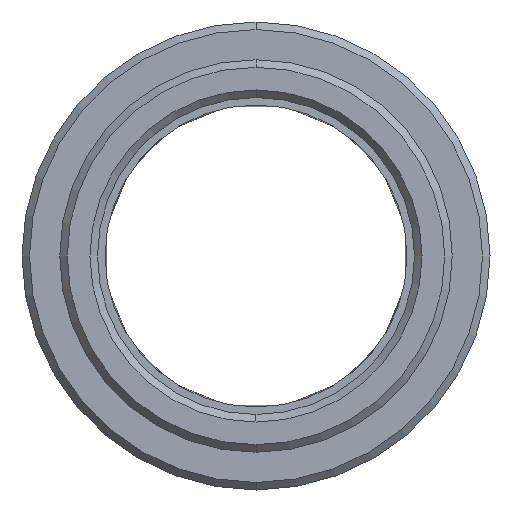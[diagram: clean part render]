
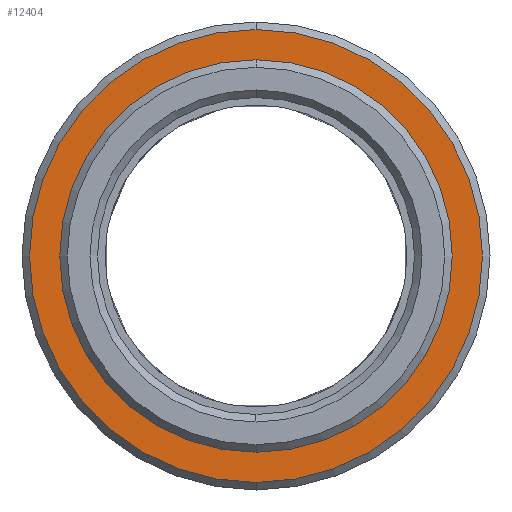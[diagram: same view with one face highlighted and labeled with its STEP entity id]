
A CAD part, left-side view. The second image highlights one B-rep face of the part: STEP entity #12404.
In plain terms, the highlighted planar face has unit normal (-1, 0, 0).
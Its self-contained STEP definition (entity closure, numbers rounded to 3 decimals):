
#4884=CARTESIAN_POINT('',(0.,0.,0.));
#4885=DIRECTION('',(1.,0.,0.));
#4886=DIRECTION('',(0.,0.,1.));
#4887=AXIS2_PLACEMENT_3D('',#4884,#4885,#4886);
#4889=CARTESIAN_POINT('',(0.,0.,0.));
#4890=DIRECTION('',(-1.,0.,0.));
#4891=DIRECTION('',(0.,0.,1.));
#4892=AXIS2_PLACEMENT_3D('',#4889,#4890,#4891);
#4894=CARTESIAN_POINT('',(0.,0.,0.));
#4895=DIRECTION('',(1.,0.,0.));
#4896=DIRECTION('',(0.,0.,-1.));
#4897=AXIS2_PLACEMENT_3D('',#4894,#4895,#4896);
#4899=CARTESIAN_POINT('',(0.,0.,
0.));
#4900=DIRECTION('',(1.,0.,0.));
#4901=DIRECTION('',(0.,0.,1.));
#4902=AXIS2_PLACEMENT_3D('',#4899,#4900,#4901);
#9954=CARTESIAN_POINT('',(0.,0.,-15.));
#9955=CARTESIAN_POINT('',(0.,0.,15.));
#9956=VERTEX_POINT('',#9954);
#9957=VERTEX_POINT('',#9955);
#10330=CARTESIAN_POINT('',(0.,0.,13.));
#10331=CARTESIAN_POINT('',(0.,0.,-13.));
#10332=VERTEX_POINT('',#10330);
#10333=VERTEX_POINT('',#10331);
#12389=CARTESIAN_POINT('',(0.,0.,0.));
#12390=DIRECTION('',(1.,0.,0.));
#12391=DIRECTION('',(0.,0.,1.));
#12392=AXIS2_PLACEMENT_3D('',#12389,#12390,#12391);
#12393=PLANE('',#12392);
#12395=ORIENTED_EDGE('',*,*,#12394,.T.);
#12397=ORIENTED_EDGE('',*,*,#12396,.T.);
#12398=EDGE_LOOP('',(#12395,#12397));
#12399=FACE_OUTER_BOUND('',#12398,.F.);
#12400=ORIENTED_EDGE('',*,*,#12356,.F.);
#12401=ORIENTED_EDGE('',*,*,#12371,.T.);
#12402=EDGE_LOOP('',(#12400,#12401));
#12403=FACE_BOUND('',#12402,.F.);
#12404=ADVANCED_FACE('',(#12399,#12403),#12393,.F.);
#4888=CIRCLE('',#4887,13.);
#4893=CIRCLE('',#4892,13.);
#4898=CIRCLE('',#4897,15.);
#4903=CIRCLE('',#4902,15.);
#12356=EDGE_CURVE('',#10332,#10333,#4888,.T.);
#12371=EDGE_CURVE('',#10332,#10333,#4893,.T.);
#12394=EDGE_CURVE('',#9956,#9957,#4898,.T.);
#12396=EDGE_CURVE('',#9957,#9956,#4903,.T.);
